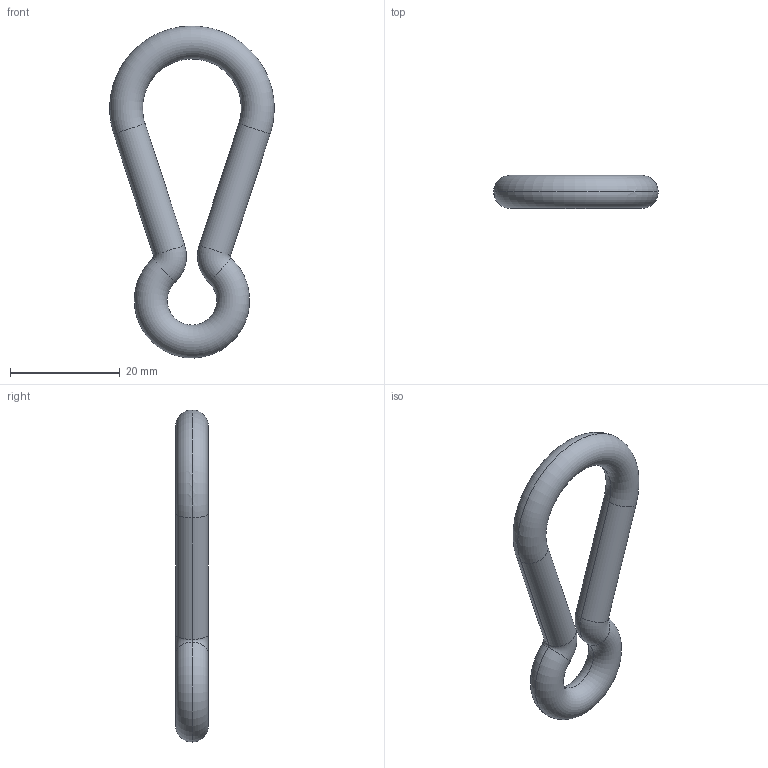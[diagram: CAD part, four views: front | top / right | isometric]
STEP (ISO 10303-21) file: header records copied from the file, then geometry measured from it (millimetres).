
FILE_DESCRIPTION((''),'2;1');
FILE_NAME('ACMOSC','2002-12-27T',('Lipro doo'),('Lipro d.o.o.'),'PRO/ENGINEER BY PARAMETRIC TECHNOLOGY CORPORATION, 2001150','PRO/ENGINEER BY PARAMETRIC TECHNOLOGY CORPORATION, 2001150','');
FILE_SCHEMA(('CONFIG_CONTROL_DESIGN'));
Length unit declared in the file: millimetre
Products named in the file (1): ACMOSC
Bounding box: 29.96 x 6 x 60.49 mm (x, y, z)
Volume: 3836.4 mm3; surface area: 2557.6 mm2
Topology: 1 solids, 1 shells, 12 faces, 24 edges, 12 vertices
Faces by surface type: torus 8, cylinder 4
Entity records: 460 total; most frequent: CARTESIAN_POINT 178, DIRECTION 52, ORIENTED_EDGE 48, AXIS2_PLACEMENT_3D 24, EDGE_CURVE 24, VERTEX_POINT 12, EDGE_LOOP 12, FACE_OUTER_BOUND 12
